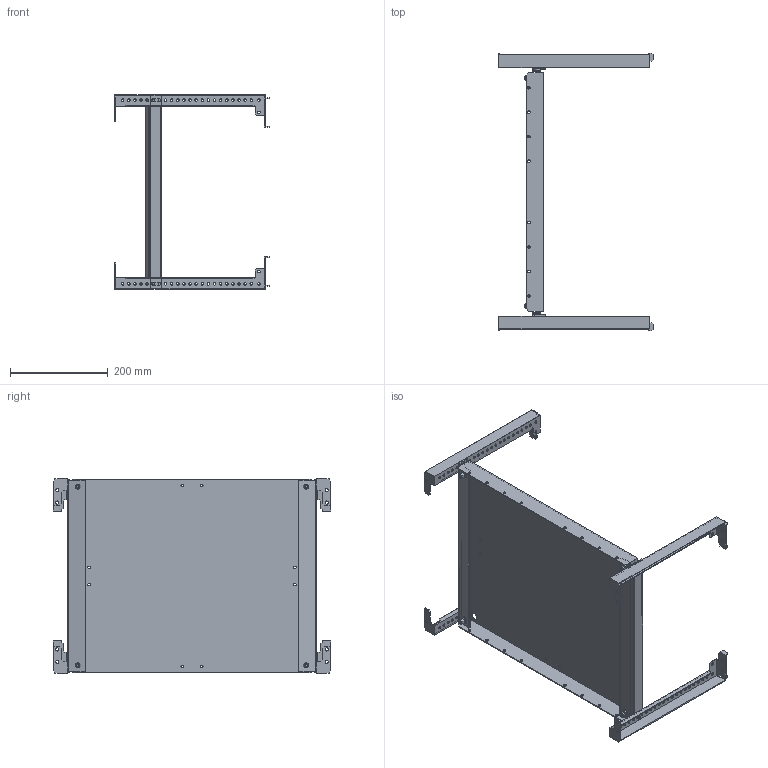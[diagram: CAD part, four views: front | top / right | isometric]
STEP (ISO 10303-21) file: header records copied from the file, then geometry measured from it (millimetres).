
FILE_DESCRIPTION (( 'STEP AP214' ), '1' );
FILE_NAME ('FO-00-MPU-040-060 Ïàíåëü ìîíòàæíàÿ óíèâåðñàëüíàÿ 400?600 ìì.STEP', '2025-07-16T07:06:45', ( '' ), ( '' ), 'SwSTEP 2.0', 'SolidWorks 2023', '' );
FILE_SCHEMA (( 'AUTOMOTIVE_DESIGN' ));
Length unit declared in the file: millimetre
Products named in the file (5): Траверса горизонтальнаяD; Траверса горизонтальная; FO-00-MPU-040-060 Панель монтажная универсальная 400×600 мм; Панель монтажная универсальная 400×600 мм; Винты DIN 912 4xM6x20 400x600
Assembly tree (6 placements, depth 2):
  FO-00-MPU-040-060 Панель монтажная универсальная 400×600 мм
    Панель монтажная универсальная 400×600 мм
    Винты DIN 912 4xM6x20 400x600
    Траверса горизонтальная  x2
    Траверса горизонтальнаяD  x2
Bounding box: 314.53 x 565.63 x 397 mm (x, y, z)
Volume: 799238.3 mm3; surface area: 818536 mm2
Topology: 9 solids, 13 shells, 1010 faces, 2744 edges, 1808 vertices
Faces by surface type: cylinder 468, plane 454, cone 56, torus 32
Entity records: 26087 total; most frequent: CARTESIAN_POINT 5387, DIRECTION 4400, ORIENTED_EDGE 4156, EDGE_CURVE 2078, AXIS2_PLACEMENT_3D 1609, VERTEX_POINT 1364, LINE 1182, VECTOR 1182
